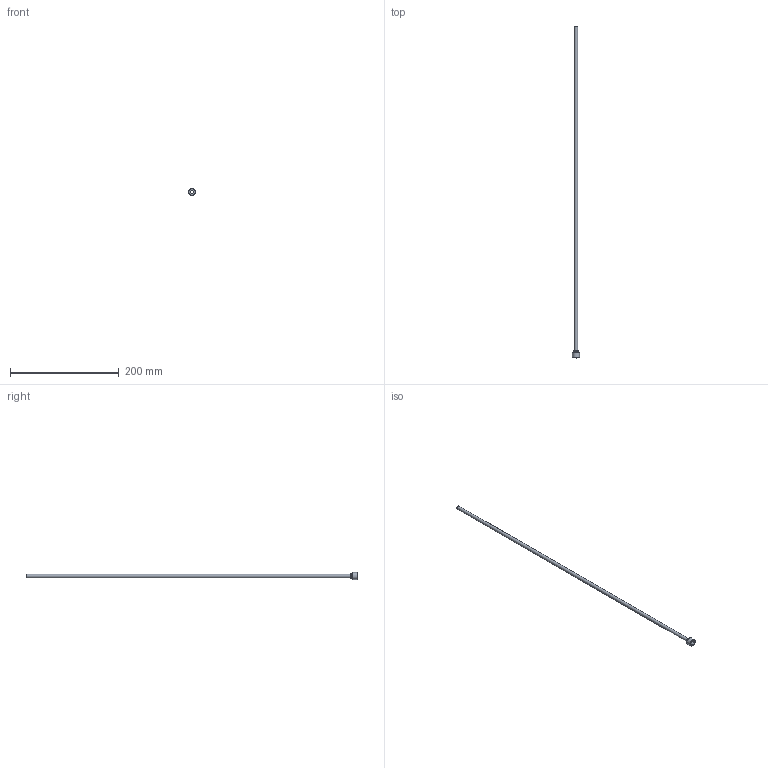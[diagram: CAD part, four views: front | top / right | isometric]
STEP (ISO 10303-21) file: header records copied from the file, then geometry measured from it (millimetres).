
FILE_DESCRIPTION(/* description */ (''),/* implementation_level */ '2;1');
FILE_NAME(/* name */ 'C:/Users/drich/Desktop/PT14-250-24 v1.step',/* time_stamp */ '2019-12-27T15:08:58-06:00',/* author */ (''),/* organization */ (''),/* preprocessor_version */ 'ST-DEVELOPER v18',/* originating_system */ 'Autodesk Translation Framework v8.12.0.6',/* authorisation */ '');
FILE_SCHEMA (('AUTOMOTIVE_DESIGN { 1 0 10303 214 3 1 1 }'));
Length unit declared in the file: inch
Products named in the file (1): PT14-250-24
Bounding box: 13.03 x 609.6 x 13.03 mm (x, y, z)
Volume: 3990.9 mm3; surface area: 23780 mm2
Topology: 1 solids, 1 shells, 19 faces, 48 edges, 34 vertices
Faces by surface type: plane 11, cylinder 4, torus 2, cone 2
Full cylindrical faces by diameter (mm): 5.842 x1, 6.35 x1, 8.712 x1, 13.032 x1
Entity records: 633 total; most frequent: DIRECTION 112, CARTESIAN_POINT 102, ORIENTED_EDGE 96, EDGE_CURVE 48, AXIS2_PLACEMENT_3D 44, VERTEX_POINT 34, CIRCLE 24, EDGE_LOOP 24
